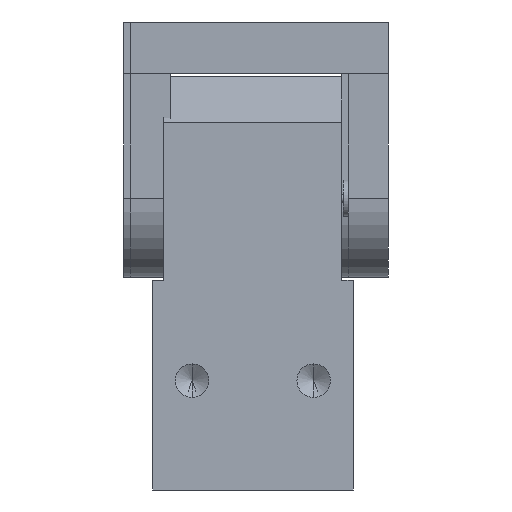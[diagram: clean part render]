
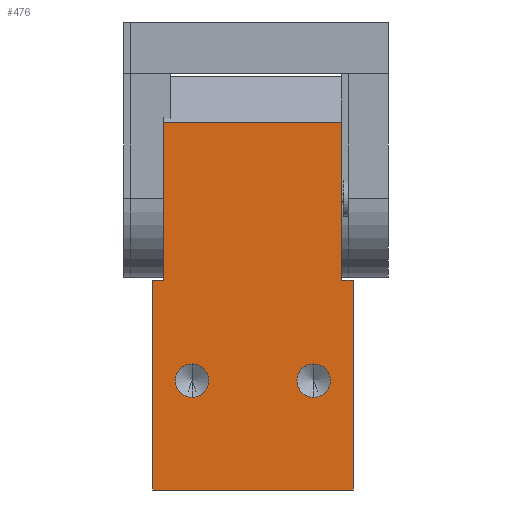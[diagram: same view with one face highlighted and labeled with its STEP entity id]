
A CAD part, left-side view. The second image highlights one B-rep face of the part: STEP entity #476.
In plain terms, the highlighted planar face has unit normal (-1, 0, 0).
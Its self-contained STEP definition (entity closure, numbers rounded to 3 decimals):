
#220 = EDGE_CURVE ( 'NONE', #227, #222, #2289, .T. ) ;
#222 = VERTEX_POINT ( 'NONE', #2284 ) ;
#227 = VERTEX_POINT ( 'NONE', #2279 ) ;
#244 = VERTEX_POINT ( 'NONE', #2334 ) ;
#248 = EDGE_CURVE ( 'NONE', #255, #244, #2321, .T. ) ;
#255 = VERTEX_POINT ( 'NONE', #2320 ) ;
#298 = EDGE_CURVE ( 'NONE', #358, #310, #2411, .T. ) ;
#310 = VERTEX_POINT ( 'NONE', #2510 ) ;
#326 = VERTEX_POINT ( 'NONE', #2529 ) ;
#351 = VERTEX_POINT ( 'NONE', #2563 ) ;
#358 = VERTEX_POINT ( 'NONE', #2599 ) ;
#403 = EDGE_CURVE ( 'NONE', #351, #326, #2653, .T. ) ;
#410 = EDGE_CURVE ( 'NONE', #769, #358, #2699, .T. ) ;
#442 = ORIENTED_EDGE ( 'NONE', *, *, #248, .F. ) ;
#445 = EDGE_CURVE ( 'NONE', #244, #255, #2766, .T. ) ;
#447 = ORIENTED_EDGE ( 'NONE', *, *, #403, .F. ) ;
#448 = ORIENTED_EDGE ( 'NONE', *, *, #410, .F. ) ;
#458 = EDGE_LOOP ( 'NONE', ( #463, #442 ) ) ;
#463 = ORIENTED_EDGE ( 'NONE', *, *, #445, .F. ) ;
#464 = ORIENTED_EDGE ( 'NONE', *, *, #501, .F. ) ;
#471 = ORIENTED_EDGE ( 'NONE', *, *, #298, .F. ) ;
#472 = ORIENTED_EDGE ( 'NONE', *, *, #220, .F. ) ;
#473 = EDGE_CURVE ( 'NONE', #222, #227, #2805, .T. ) ;
#475 = EDGE_LOOP ( 'NONE', ( #448, #754, #506, #447, #504, #497, #464, #471 ) ) ;
#476 = ADVANCED_FACE ( 'NONE', ( #2807, #2749, #2796 ), #2806, .F. ) ;
#481 = EDGE_CURVE ( 'NONE', #553, #610, #2790, .T. ) ;
#497 = ORIENTED_EDGE ( 'NONE', *, *, #481, .T. ) ;
#501 = EDGE_CURVE ( 'NONE', #310, #610, #2823, .T. ) ;
#504 = ORIENTED_EDGE ( 'NONE', *, *, #727, .T. ) ;
#506 = ORIENTED_EDGE ( 'NONE', *, *, #519, .T. ) ;
#519 = EDGE_CURVE ( 'NONE', #750, #326, #2855, .T. ) ;
#553 = VERTEX_POINT ( 'NONE', #2923 ) ;
#610 = VERTEX_POINT ( 'NONE', #3003 ) ;
#612 = ORIENTED_EDGE ( 'NONE', *, *, #473, .F. ) ;
#675 = EDGE_LOOP ( 'NONE', ( #612, #472 ) ) ;
#727 = EDGE_CURVE ( 'NONE', #351, #553, #3272, .T. ) ;
#750 = VERTEX_POINT ( 'NONE', #3305 ) ;
#754 = ORIENTED_EDGE ( 'NONE', *, *, #764, .T. ) ;
#764 = EDGE_CURVE ( 'NONE', #769, #750, #3339, .T. ) ;
#769 = VERTEX_POINT ( 'NONE', #3342 ) ;
#2279 = CARTESIAN_POINT ( 'NONE',  ( -112., -13., 30.5 ) ) ;
#2284 = CARTESIAN_POINT ( 'NONE',  ( -112., -13., 41.5 ) ) ;
#2285 = DIRECTION ( 'NONE',  ( 0., 0., 1. ) ) ;
#2286 = DIRECTION ( 'NONE',  ( -1., 0., 0. ) ) ;
#2287 = CARTESIAN_POINT ( 'NONE',  ( -112., -13., 36. ) ) ;
#2288 = AXIS2_PLACEMENT_3D ( 'NONE', #2287, #2286, #2285 ) ;
#2289 = CIRCLE ( 'NONE', #2288, 5.5 ) ;
#2319 = CARTESIAN_POINT ( 'NONE',  ( -112., -53., 36. ) ) ;
#2320 = CARTESIAN_POINT ( 'NONE',  ( -112., -53., 30.5 ) ) ;
#2321 = CIRCLE ( 'NONE', #2371, 5.5 ) ;
#2327 = DIRECTION ( 'NONE',  ( -1., 0., 0. ) ) ;
#2334 = CARTESIAN_POINT ( 'NONE',  ( -112., -53., 41.5 ) ) ;
#2370 = DIRECTION ( 'NONE',  ( 0., 0., 1. ) ) ;
#2371 = AXIS2_PLACEMENT_3D ( 'NONE', #2319, #2327, #2370 ) ;
#2408 = DIRECTION ( 'NONE',  ( 0., -1., 0. ) ) ;
#2409 = VECTOR ( 'NONE', #2408, 1000. ) ;
#2410 = CARTESIAN_POINT ( 'NONE',  ( -112., -134.258, 69. ) ) ;
#2411 = LINE ( 'NONE', #2410, #2409 ) ;
#2510 = CARTESIAN_POINT ( 'NONE',  ( -112., -66., 69. ) ) ;
#2529 = CARTESIAN_POINT ( 'NONE',  ( -112., -3.7, 69. ) ) ;
#2563 = CARTESIAN_POINT ( 'NONE',  ( -112., 0., 69. ) ) ;
#2599 = CARTESIAN_POINT ( 'NONE',  ( -112., -62.3, 69. ) ) ;
#2652 = CARTESIAN_POINT ( 'NONE',  ( -112., -134.258, 69. ) ) ;
#2653 = LINE ( 'NONE', #2652, #2702 ) ;
#2685 = DIRECTION ( 'NONE',  ( 0., 0., -1. ) ) ;
#2686 = VECTOR ( 'NONE', #2685, 1000. ) ;
#2698 = CARTESIAN_POINT ( 'NONE',  ( -112., -62.3, 136. ) ) ;
#2699 = LINE ( 'NONE', #2698, #2686 ) ;
#2701 = DIRECTION ( 'NONE',  ( 0., -1., 0. ) ) ;
#2702 = VECTOR ( 'NONE', #2701, 1000. ) ;
#2748 = AXIS2_PLACEMENT_3D ( 'NONE', #2751, #2804, #2803 ) ;
#2749 = FACE_BOUND ( 'NONE', #458, .T. ) ;
#2750 = DIRECTION ( 'NONE',  ( 1., 0., 0. ) ) ;
#2751 = CARTESIAN_POINT ( 'NONE',  ( -112., -13., 36. ) ) ;
#2753 = AXIS2_PLACEMENT_3D ( 'NONE', #2758, #2750, #2792 ) ;
#2758 = CARTESIAN_POINT ( 'NONE',  ( -112., -134.258, 69. ) ) ;
#2759 = DIRECTION ( 'NONE',  ( 0., 0., 1. ) ) ;
#2760 = DIRECTION ( 'NONE',  ( -1., 0., 0. ) ) ;
#2761 = CARTESIAN_POINT ( 'NONE',  ( -112., -53., 36. ) ) ;
#2766 = CIRCLE ( 'NONE', #2775, 5.5 ) ;
#2775 = AXIS2_PLACEMENT_3D ( 'NONE', #2761, #2760, #2759 ) ;
#2785 = DIRECTION ( 'NONE',  ( 0., -1., 0. ) ) ;
#2786 = VECTOR ( 'NONE', #2785, 1000. ) ;
#2789 = CARTESIAN_POINT ( 'NONE',  ( -112., -134.258, 0. ) ) ;
#2790 = LINE ( 'NONE', #2789, #2786 ) ;
#2792 = DIRECTION ( 'NONE',  ( 0., 0., -1. ) ) ;
#2796 = FACE_OUTER_BOUND ( 'NONE', #475, .T. ) ;
#2803 = DIRECTION ( 'NONE',  ( 0., 0., 1. ) ) ;
#2804 = DIRECTION ( 'NONE',  ( -1., 0., 0. ) ) ;
#2805 = CIRCLE ( 'NONE', #2748, 5.5 ) ;
#2806 = PLANE ( 'NONE',  #2753 ) ;
#2807 = FACE_BOUND ( 'NONE', #675, .T. ) ;
#2818 = DIRECTION ( 'NONE',  ( 0., 0., -1. ) ) ;
#2819 = VECTOR ( 'NONE', #2818, 1000. ) ;
#2822 = CARTESIAN_POINT ( 'NONE',  ( -112., -66., 69. ) ) ;
#2823 = LINE ( 'NONE', #2822, #2819 ) ;
#2851 = DIRECTION ( 'NONE',  ( 0., 0., -1. ) ) ;
#2852 = VECTOR ( 'NONE', #2851, 1000. ) ;
#2853 = CARTESIAN_POINT ( 'NONE',  ( -112., -3.7, 136. ) ) ;
#2855 = LINE ( 'NONE', #2853, #2852 ) ;
#2923 = CARTESIAN_POINT ( 'NONE',  ( -112., 0., 0. ) ) ;
#3003 = CARTESIAN_POINT ( 'NONE',  ( -112., -66., 0. ) ) ;
#3269 = DIRECTION ( 'NONE',  ( 0., 0., -1. ) ) ;
#3270 = VECTOR ( 'NONE', #3269, 1000. ) ;
#3271 = CARTESIAN_POINT ( 'NONE',  ( -112., 0., 69. ) ) ;
#3272 = LINE ( 'NONE', #3271, #3270 ) ;
#3305 = CARTESIAN_POINT ( 'NONE',  ( -112., -3.7, 121. ) ) ;
#3336 = DIRECTION ( 'NONE',  ( 0., 1., 0. ) ) ;
#3337 = VECTOR ( 'NONE', #3336, 1000. ) ;
#3338 = CARTESIAN_POINT ( 'NONE',  ( -112., -3.7, 121. ) ) ;
#3339 = LINE ( 'NONE', #3338, #3337 ) ;
#3342 = CARTESIAN_POINT ( 'NONE',  ( -112., -62.3, 121. ) ) ;
